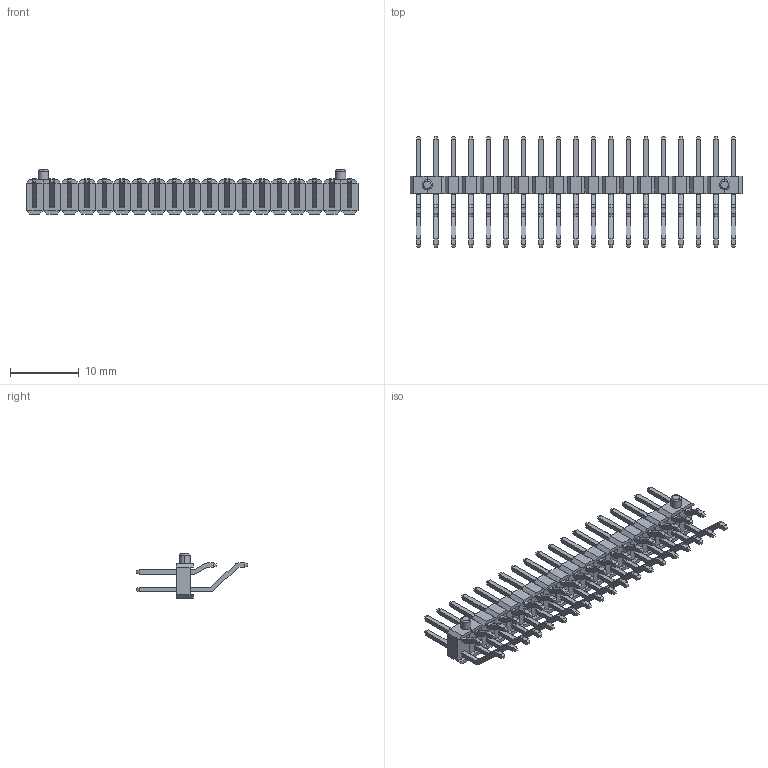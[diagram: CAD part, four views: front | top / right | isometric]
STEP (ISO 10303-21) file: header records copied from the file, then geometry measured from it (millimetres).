
FILE_DESCRIPTION (( 'STEP AP214' ), '1' );
FILE_NAME ('PZ254-2-19-WS-2.5-XX-SP(L16.17) (2.54双排 卧贴排针 带侧柱 塑高2.5-HCTL).STEP', '2024-11-26T02:32:42', ( '' ), ( '' ), 'SwSTEP 2.0', 'SolidWorks 2022', '' );
FILE_SCHEMA (( 'AUTOMOTIVE_DESIGN' ));
Length unit declared in the file: millimetre
Products named in the file (1): PZ254-2-19-WS-2.5-XX-SP(L16.17) (2.54双排 卧贴排针 带侧柱 塑高2.5-HCTL)
Bounding box: 48.22 x 16.17 x 6.4 mm (x, y, z)
Volume: 680 mm3; surface area: 2623.8 mm2
Topology: 40 solids, 40 shells, 1452 faces, 3512 edges, 2216 vertices
Faces by surface type: plane 1292, cylinder 156, torus 4
Entity records: 41657 total; most frequent: CARTESIAN_POINT 7181, ORIENTED_EDGE 7024, DIRECTION 6742, EDGE_CURVE 3512, VECTOR 3188, LINE 3188, VERTEX_POINT 2216, AXIS2_PLACEMENT_3D 1777
